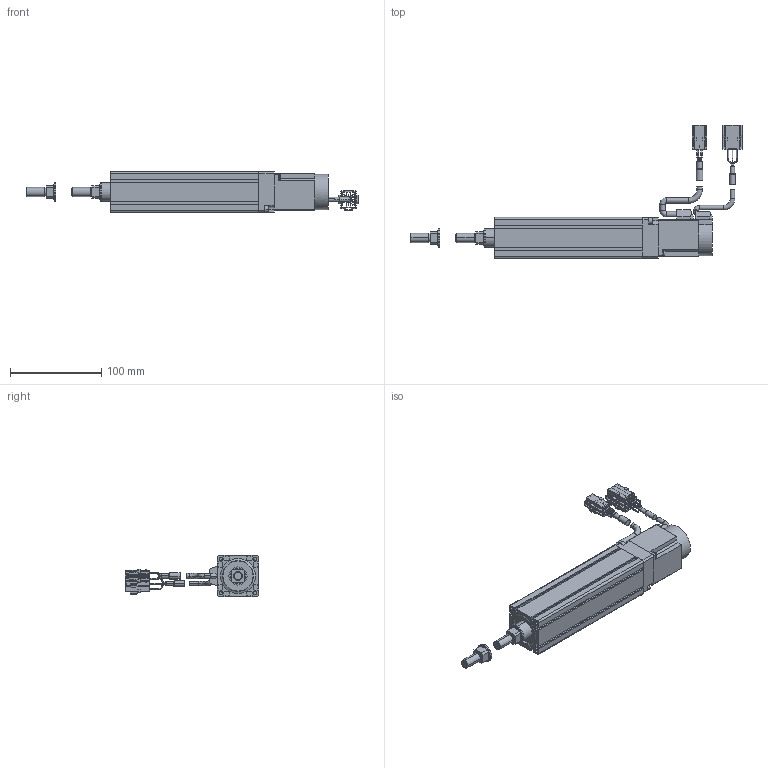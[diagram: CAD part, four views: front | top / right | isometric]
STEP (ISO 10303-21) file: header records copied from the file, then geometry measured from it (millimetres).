
FILE_DESCRIPTION((''),'2;1');
FILE_NAME('BET4D-ST-C_N-05_IGS_PRT','2017-06-18T',(' '),(''),'PRO/ENGINEER BY PARAMETRIC TECHNOLOGY CORPORATION, 2015030','PRO/ENGINEER BY PARAMETRIC TECHNOLOGY CORPORATION, 2015030','');
FILE_SCHEMA(('CONFIG_CONTROL_DESIGN'));
Length unit declared in the file: millimetre
Products named in the file (1): BET4D-ST-C_N-05_IGS_PRT
Bounding box: 363.4 x 145.7 x 45 mm (x, y, z)
Volume: 350152.8 mm3; surface area: 118708.9 mm2
Topology: 5 solids, 29 shells, 835 faces, 2172 edges, 1408 vertices
Faces by surface type: plane 523, cylinder 226, torus 64, cone 18, sphere 4
Entity records: 25768 total; most frequent: CARTESIAN_POINT 4748, DIRECTION 4396, ORIENTED_EDGE 4280, EDGE_CURVE 2168, VECTOR 1538, LINE 1538, AXIS2_PLACEMENT_3D 1429, VERTEX_POINT 1408
